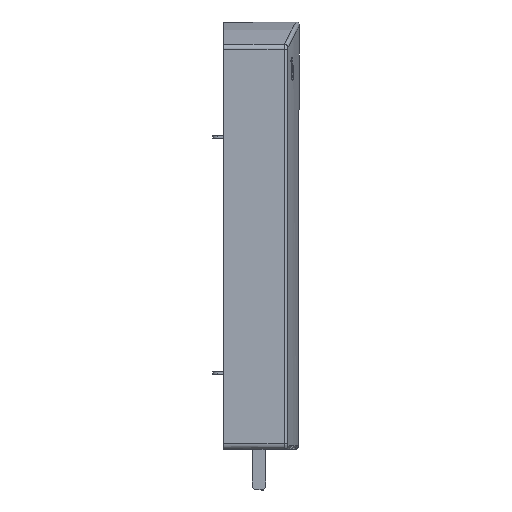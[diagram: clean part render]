
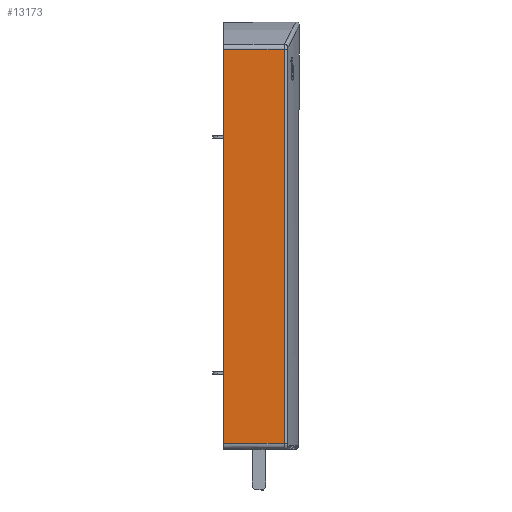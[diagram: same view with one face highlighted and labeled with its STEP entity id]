
A CAD part, top view. The second image highlights one B-rep face of the part: STEP entity #13173.
In plain terms, the highlighted planar face has unit normal (0, 0, 1).
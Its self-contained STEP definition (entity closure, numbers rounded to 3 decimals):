
#1840 = EDGE_CURVE ( 'NONE', #14087, #14088, #7118, .T. ) ;
#4113 = AXIS2_PLACEMENT_3D ( 'NONE', #11342, #11354, #11355 ) ;
#5629 = EDGE_CURVE ( 'NONE', #14179, #14087, #9805, .T. ) ;
#5630 = EDGE_CURVE ( 'NONE', #14179, #14161, #9817, .T. ) ;
#5631 = EDGE_CURVE ( 'NONE', #14161, #14088, #9806, .T. ) ;
#6227 = ORIENTED_EDGE ( 'NONE', *, *, #5629, .F. ) ;
#6228 = ORIENTED_EDGE ( 'NONE', *, *, #5630, .T. ) ;
#6229 = ORIENTED_EDGE ( 'NONE', *, *, #5631, .T. ) ;
#6230 = ORIENTED_EDGE ( 'NONE', *, *, #1840, .F. ) ;
#7118 = LINE ( 'NONE', #7119, #7190 ) ;
#7119 = CARTESIAN_POINT ( 'NONE',  ( 0., 207.096, 22.754 ) ) ;
#7120 = DIRECTION ( 'NONE',  ( 0., 1., 0. ) ) ;
#7190 = VECTOR ( 'NONE', #7120, 1000. ) ;
#7284 = VECTOR ( 'NONE', #9816, 1000. ) ;
#7285 = VECTOR ( 'NONE', #9820, 1000. ) ;
#7286 = VECTOR ( 'NONE', #9822, 1000. ) ;
#9805 = LINE ( 'NONE', #9815, #7284 ) ;
#9806 = LINE ( 'NONE', #9821, #7286 ) ;
#9815 = CARTESIAN_POINT ( 'NONE',  ( 41.001, -6.062, 22.754 ) ) ;
#9816 = DIRECTION ( 'NONE',  ( -1., 0., 0. ) ) ;
#9817 = LINE ( 'NONE', #9819, #7285 ) ;
#9819 = CARTESIAN_POINT ( 'NONE',  ( 32.709, 207.096, 22.754 ) ) ;
#9820 = DIRECTION ( 'NONE',  ( 0., 1., 0. ) ) ;
#9821 = CARTESIAN_POINT ( 'NONE',  ( 41.001, 207.096, 22.754 ) ) ;
#9822 = DIRECTION ( 'NONE',  ( -1., 0., 0. ) ) ;
#11342 = CARTESIAN_POINT ( 'NONE',  ( 41.001, 207.096, 22.754 ) ) ;
#11350 = FACE_OUTER_BOUND ( 'NONE', #14357, .T. ) ;
#11351 = PLANE ( 'NONE',  #4113 ) ;
#11354 = DIRECTION ( 'NONE',  ( 0., 0., 1. ) ) ;
#11355 = DIRECTION ( 'NONE',  ( 1., 0., 0. ) ) ;
#11705 = CARTESIAN_POINT ( 'NONE',  ( 0., -6.062, 22.754 ) ) ;
#11706 = CARTESIAN_POINT ( 'NONE',  ( 0., 207.096, 22.754 ) ) ;
#11779 = CARTESIAN_POINT ( 'NONE',  ( 32.709, 207.096, 22.754 ) ) ;
#11797 = CARTESIAN_POINT ( 'NONE',  ( 32.709, -6.062, 22.754 ) ) ;
#13173 = ADVANCED_FACE ( 'NONE', ( #11350 ), #11351, .T. ) ;
#14087 = VERTEX_POINT ( 'NONE', #11705 ) ;
#14088 = VERTEX_POINT ( 'NONE', #11706 ) ;
#14161 = VERTEX_POINT ( 'NONE', #11779 ) ;
#14179 = VERTEX_POINT ( 'NONE', #11797 ) ;
#14357 = EDGE_LOOP ( 'NONE', ( #6227, #6228, #6229, #6230 ) ) ;
